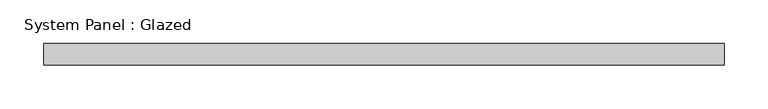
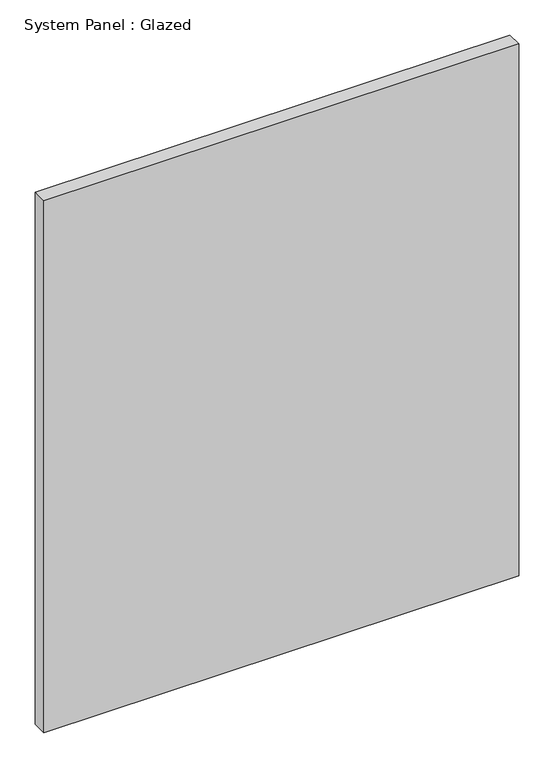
"""IFC4 building model written with IfcOpenShell, lengths in millimetres: plate geometry, System Panel : Glazed."""

from ifc_helpers import new_model, si_unit, origin, origin_with_axes, place, context, project, spatial, polyline, outline, extrude, source, transform, mapped, element, save


def system_panel_glazed_b436b430(model_context):
    return source(origin(), model_context, "Body", "SweptSolid", [
        extrude(outline(polyline([(390.3574548, 24.5), (-390.3574548, 24.5), (-390.3574548, 49.5), (390.3574548, 49.5), (390.3574548, 24.5)])), origin_with_axes(), (0.0, 0.0, 1.0), 925.0),
    ])


if __name__ == "__main__":
    model = new_model("IFC4")
    model_context = context("Model", 3, world=origin())
    ifc_project = project(units=[si_unit("LENGTHUNIT", "METRE", prefix="MILLI")], contexts=[model_context])
    site = spatial("IfcSite", under=ifc_project)
    building = spatial("IfcBuilding", under=site)
    placement = place(None, origin())
    system_panel_glazed_shape = system_panel_glazed_b436b430(model_context)
    element("IfcPlate", 1, ObjectType="System Panel : Glazed", at=placement, inside=building, context=model_context, shape_type="MappedRepresentation", body=[
        mapped(system_panel_glazed_shape, transform((0.0, 0.0, 0.0), x_axis=(1.0, 0.0, 0.0), y_axis=(0.0, 1.0, 0.0), z_axis=(0.0, 0.0, 1.0))),
    ])
    save(model, "model.ifc")
